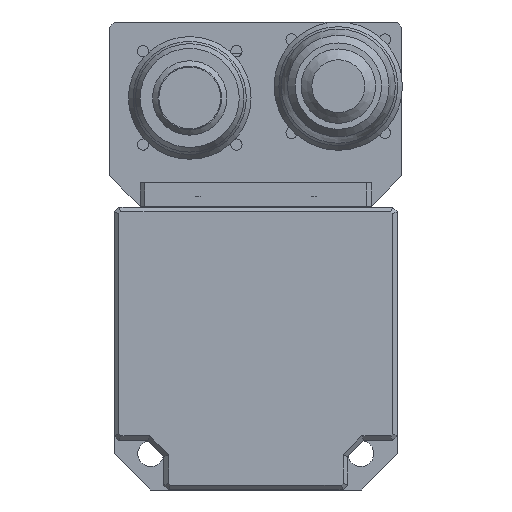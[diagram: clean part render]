
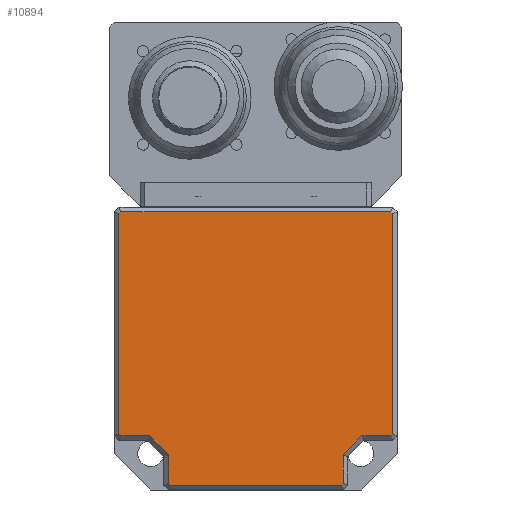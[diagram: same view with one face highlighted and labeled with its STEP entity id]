
A CAD part, left-side view. The second image highlights one B-rep face of the part: STEP entity #10894.
In plain terms, the highlighted planar face has unit normal (-1, 0, 0).
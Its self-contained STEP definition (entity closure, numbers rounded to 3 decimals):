
#10709=CARTESIAN_POINT('',(38.121,-19.649,-76.586));
#10710=VERTEX_POINT('',#10709);
#10727=CARTESIAN_POINT('',(38.121,-19.649,-29.914));
#10728=VERTEX_POINT('',#10727);
#10735=CARTESIAN_POINT('',(38.121,-19.649,-29.914));
#10736=DIRECTION('',(0.0,0.0,-1.0));
#10737=VECTOR('',#10736,46.672);
#10738=LINE('',#10735,#10737);
#10739=EDGE_CURVE('',#10728,#10710,#10738,.T.);
#10750=CARTESIAN_POINT('',(38.121,-19.235,-77.));
#10751=VERTEX_POINT('',#10750);
#10752=CARTESIAN_POINT('',(38.121,-19.649,-76.586));
#10753=DIRECTION('',(0.0,0.707,-0.707));
#10754=VECTOR('',#10753,0.586);
#10755=LINE('',#10752,#10754);
#10756=EDGE_CURVE('',#10710,#10751,#10755,.T.);
#10775=CARTESIAN_POINT('',(38.121,9.351,-57.136));
#10776=DIRECTION('',(1.0,0.0,0.0));
#10777=DIRECTION('',(0.0,0.0,-1.0));
#10778=AXIS2_PLACEMENT_3D('',#10775,#10776,#10777);
#10779=PLANE('',#10778);
#10780=ORIENTED_EDGE('',*,*,#10739,.F.);
#10781=CARTESIAN_POINT('',(38.121,-19.235,-29.5));
#10782=VERTEX_POINT('',#10781);
#10783=CARTESIAN_POINT('',(38.121,-19.235,-29.5));
#10784=DIRECTION('',(0.0,-0.707,-0.707));
#10785=VECTOR('',#10784,0.586);
#10786=LINE('',#10783,#10785);
#10787=EDGE_CURVE('',#10782,#10728,#10786,.T.);
#10788=ORIENTED_EDGE('',*,*,#10787,.F.);
#10789=CARTESIAN_POINT('',(38.121,37.936,-29.5));
#10790=VERTEX_POINT('',#10789);
#10791=CARTESIAN_POINT('',(38.121,37.936,-29.5));
#10792=DIRECTION('',(0.0,-1.0,0.0));
#10793=VECTOR('',#10792,57.172);
#10794=LINE('',#10791,#10793);
#10795=EDGE_CURVE('',#10790,#10782,#10794,.T.);
#10796=ORIENTED_EDGE('',*,*,#10795,.F.);
#10797=CARTESIAN_POINT('',(38.121,38.351,-29.914));
#10798=VERTEX_POINT('',#10797);
#10799=CARTESIAN_POINT('',(38.121,38.351,-29.914));
#10800=DIRECTION('',(0.0,-0.707,0.707));
#10801=VECTOR('',#10800,0.586);
#10802=LINE('',#10799,#10801);
#10803=EDGE_CURVE('',#10798,#10790,#10802,.T.);
#10804=ORIENTED_EDGE('',*,*,#10803,.F.);
#10805=CARTESIAN_POINT('',(38.121,38.351,-76.586));
#10806=VERTEX_POINT('',#10805);
#10807=CARTESIAN_POINT('',(38.121,38.351,-76.586));
#10808=DIRECTION('',(0.0,0.0,1.0));
#10809=VECTOR('',#10808,46.672);
#10810=LINE('',#10807,#10809);
#10811=EDGE_CURVE('',#10806,#10798,#10810,.T.);
#10812=ORIENTED_EDGE('',*,*,#10811,.F.);
#10813=CARTESIAN_POINT('',(38.121,37.936,-77.));
#10814=VERTEX_POINT('',#10813);
#10815=CARTESIAN_POINT('',(38.121,37.936,-77.));
#10816=DIRECTION('',(0.0,0.707,0.707));
#10817=VECTOR('',#10816,0.586);
#10818=LINE('',#10815,#10817);
#10819=EDGE_CURVE('',#10814,#10806,#10818,.T.);
#10820=ORIENTED_EDGE('',*,*,#10819,.F.);
#10821=CARTESIAN_POINT('',(38.121,31.863,-77.));
#10822=VERTEX_POINT('',#10821);
#10823=CARTESIAN_POINT('',(38.121,31.863,-77.));
#10824=DIRECTION('',(0.0,1.0,0.0));
#10825=VECTOR('',#10824,6.074);
#10826=LINE('',#10823,#10825);
#10827=EDGE_CURVE('',#10822,#10814,#10826,.T.);
#10828=ORIENTED_EDGE('',*,*,#10827,.F.);
#10829=CARTESIAN_POINT('',(38.121,27.851,-81.012));
#10830=VERTEX_POINT('',#10829);
#10831=CARTESIAN_POINT('',(38.121,27.851,-81.012));
#10832=DIRECTION('',(0.0,0.707,0.707));
#10833=VECTOR('',#10832,5.674);
#10834=LINE('',#10831,#10833);
#10835=EDGE_CURVE('',#10830,#10822,#10834,.T.);
#10836=ORIENTED_EDGE('',*,*,#10835,.F.);
#10837=CARTESIAN_POINT('',(38.121,27.851,-87.086));
#10838=VERTEX_POINT('',#10837);
#10839=CARTESIAN_POINT('',(38.121,27.851,-87.086));
#10840=DIRECTION('',(0.0,0.0,1.0));
#10841=VECTOR('',#10840,6.074);
#10842=LINE('',#10839,#10841);
#10843=EDGE_CURVE('',#10838,#10830,#10842,.T.);
#10844=ORIENTED_EDGE('',*,*,#10843,.F.);
#10845=CARTESIAN_POINT('',(38.121,27.436,-87.5));
#10846=VERTEX_POINT('',#10845);
#10847=CARTESIAN_POINT('',(38.121,27.436,-87.5));
#10848=DIRECTION('',(0.0,0.707,0.707));
#10849=VECTOR('',#10848,0.586);
#10850=LINE('',#10847,#10849);
#10851=EDGE_CURVE('',#10846,#10838,#10850,.T.);
#10852=ORIENTED_EDGE('',*,*,#10851,.F.);
#10853=CARTESIAN_POINT('',(38.121,-8.735,-87.5));
#10854=VERTEX_POINT('',#10853);
#10855=CARTESIAN_POINT('',(38.121,-8.735,-87.5));
#10856=DIRECTION('',(0.0,1.0,0.0));
#10857=VECTOR('',#10856,36.172);
#10858=LINE('',#10855,#10857);
#10859=EDGE_CURVE('',#10854,#10846,#10858,.T.);
#10860=ORIENTED_EDGE('',*,*,#10859,.F.);
#10861=CARTESIAN_POINT('',(38.121,-9.149,-87.086));
#10862=VERTEX_POINT('',#10861);
#10863=CARTESIAN_POINT('',(38.121,-9.149,-87.086));
#10864=DIRECTION('',(0.0,0.707,-0.707));
#10865=VECTOR('',#10864,0.586);
#10866=LINE('',#10863,#10865);
#10867=EDGE_CURVE('',#10862,#10854,#10866,.T.);
#10868=ORIENTED_EDGE('',*,*,#10867,.F.);
#10869=CARTESIAN_POINT('',(38.121,-9.149,-81.012));
#10870=VERTEX_POINT('',#10869);
#10871=CARTESIAN_POINT('',(38.121,-9.149,-81.012));
#10872=DIRECTION('',(0.0,0.0,-1.0));
#10873=VECTOR('',#10872,6.074);
#10874=LINE('',#10871,#10873);
#10875=EDGE_CURVE('',#10870,#10862,#10874,.T.);
#10876=ORIENTED_EDGE('',*,*,#10875,.F.);
#10877=CARTESIAN_POINT('',(38.121,-13.162,-77.));
#10878=VERTEX_POINT('',#10877);
#10879=CARTESIAN_POINT('',(38.121,-13.162,-77.));
#10880=DIRECTION('',(0.0,0.707,-0.707));
#10881=VECTOR('',#10880,5.674);
#10882=LINE('',#10879,#10881);
#10883=EDGE_CURVE('',#10878,#10870,#10882,.T.);
#10884=ORIENTED_EDGE('',*,*,#10883,.F.);
#10885=CARTESIAN_POINT('',(38.121,-19.235,-77.));
#10886=DIRECTION('',(0.0,1.0,0.0));
#10887=VECTOR('',#10886,6.074);
#10888=LINE('',#10885,#10887);
#10889=EDGE_CURVE('',#10751,#10878,#10888,.T.);
#10890=ORIENTED_EDGE('',*,*,#10889,.F.);
#10891=ORIENTED_EDGE('',*,*,#10756,.F.);
#10892=EDGE_LOOP('',(#10780,#10788,#10796,#10804,#10812,#10820,#10828,#10836,#10844,#10852,#10860,#10868,#10876,#10884,#10890,#10891));
#10893=FACE_OUTER_BOUND('',#10892,.T.);
#10894=ADVANCED_FACE('',(#10893),#10779,.F.);
